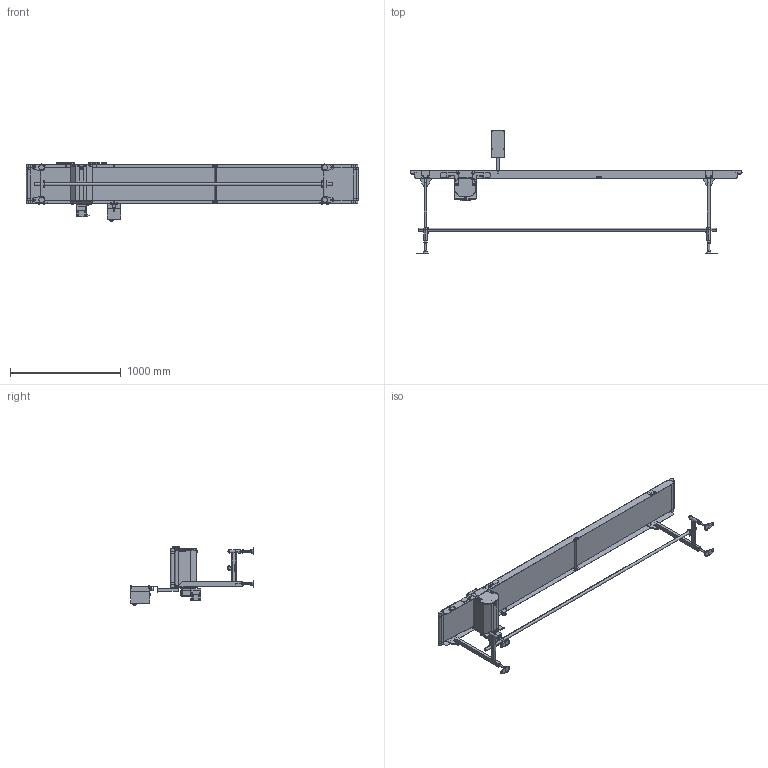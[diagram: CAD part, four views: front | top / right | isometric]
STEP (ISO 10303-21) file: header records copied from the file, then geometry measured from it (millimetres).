
FILE_DESCRIPTION( (''), '2;1');
FILE_NAME ('TBC200-HH-309-300-300-R-DC-30.stp','2025-02-14T16:57:57',(''),(''),'spGate 20.6.2 (****-****-****-****)','','');
FILE_SCHEMA (('AUTOMOTIVE_DESIGN'));
Length unit declared in the file: millimetre
Products named in the file (113): NewModel; TEMP_X_T-prt0; TEMP_X_T-prt1; TEMP_X_T-prt2; TEMP_X_T-prt3; TEMP_X_T-prt4; TEMP_X_T-prt5; TEMP_X_T-prt6; TEMP_X_T-prt7; TEMP_X_T-prt8; TEMP_X_T-prt9; TEMP_X_T-prt10; TEMP_X_T-prt11; TEMP_X_T-prt12; TEMP_X_T-prt13; TEMP_X_T-prt14; TEMP_X_T-prt15; TEMP_X_T-prt16; TEMP_X_T-prt17; TEMP_X_T-prt18; TEMP_X_T-prt19; TEMP_X_T-prt20; TEMP_X_T-prt21; TEMP_X_T-prt22; TEMP_X_T-prt23; TEMP_X_T-prt24; TEMP_X_T-prt25; TEMP_X_T-prt26; TEMP_X_T-prt27; TEMP_X_T-prt28; TEMP_X_T-prt29; TEMP_X_T-prt30; TEMP_X_T-prt31; TEMP_X_T-prt32; TEMP_X_T-prt33; TEMP_X_T-prt34; TEMP_X_T-prt35; TEMP_X_T-prt36; TEMP_X_T-prt37; TEMP_X_T-prt38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
Assembly tree (112 placements, depth 2):
  NewModel
    TEMP_X_T-prt0
    TEMP_X_T-prt1
    TEMP_X_T-prt2
    TEMP_X_T-prt3
    TEMP_X_T-prt4
    TEMP_X_T-prt5
    TEMP_X_T-prt6
    TEMP_X_T-prt7
    TEMP_X_T-prt8
    TEMP_X_T-prt9
    TEMP_X_T-prt10
    TEMP_X_T-prt11
    TEMP_X_T-prt12
    TEMP_X_T-prt13
    TEMP_X_T-prt14
    TEMP_X_T-prt15
    TEMP_X_T-prt16
    TEMP_X_T-prt17
    TEMP_X_T-prt18
    TEMP_X_T-prt19
    TEMP_X_T-prt20
    TEMP_X_T-prt21
    TEMP_X_T-prt22
    TEMP_X_T-prt23
    TEMP_X_T-prt24
    TEMP_X_T-prt25
    TEMP_X_T-prt26
    TEMP_X_T-prt27
    TEMP_X_T-prt28
    TEMP_X_T-prt29
    TEMP_X_T-prt30
    TEMP_X_T-prt31
    TEMP_X_T-prt32
    TEMP_X_T-prt33
    TEMP_X_T-prt34
    TEMP_X_T-prt35
    TEMP_X_T-prt36
    TEMP_X_T-prt37
    TEMP_X_T-prt38
    TEMP_X_T-prt39
    TEMP_X_T-prt40
    TEMP_X_T-prt41
    TEMP_X_T-prt42
    TEMP_X_T-prt43
    TEMP_X_T-prt44
    TEMP_X_T-prt45
    TEMP_X_T-prt46
    TEMP_X_T-prt47
    TEMP_X_T-prt48
    TEMP_X_T-prt49
    TEMP_X_T-prt50
    TEMP_X_T-prt51
    TEMP_X_T-prt52
    TEMP_X_T-prt53
    TEMP_X_T-prt54
    TEMP_X_T-prt55
    TEMP_X_T-prt56
    TEMP_X_T-prt57
    TEMP_X_T-prt58
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Bounding box: 3002 x 1111 x 534.58 mm (x, y, z)
Volume: 28738525.2 mm3; surface area: 8923750.1 mm2
Topology: 112 solids, 112 shells, 2699 faces, 6331 edges, 3960 vertices
Faces by surface type: plane 1444, cylinder 723, bspline 516, sphere 16
Entity records: 137222 total; most frequent: CARTESIAN_POINT 22810, ORIENTED_EDGE 12606, DIRECTION 12165, COLOUR_RGB 9114, PRESENTATION_STYLE_ASSIGNMENT 9114, STYLED_ITEM 9114, EDGE_CURVE 6303, DRAUGHTING_PRE_DEFINED_CURVE_FONT 6303
